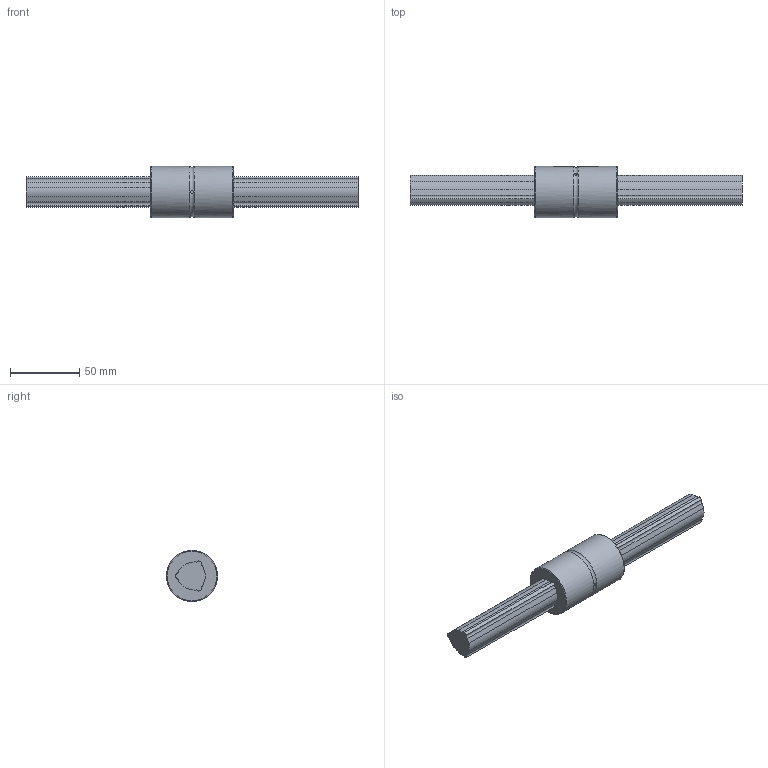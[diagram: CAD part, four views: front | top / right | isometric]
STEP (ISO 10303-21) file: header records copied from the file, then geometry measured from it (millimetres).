
FILE_DESCRIPTION(/* description */ ('STEP AP203'),/* implementation_level */ '2;1');
FILE_NAME(/* name */ 'LBS25+240L(60900)',/* time_stamp */ '2024-05-23T11:58:23+02:00',/* author */ ('License CC BY-ND 4.0'),/* organization */ ('CADENAS'),/* preprocessor_version */ 'ST-DEVELOPER v19.3',/* originating_system */ 'PARTsolutions',/* authorisation */ ' ');
FILE_SCHEMA (('CONFIG_CONTROL_DESIGN'));
Length unit declared in the file: millimetre
Products named in the file (3): LBS25+240L(60900); LBS25 Nut; LBS251240 Spline Shaft
Assembly tree (2 placements, depth 2):
  LBS25+240L(60900)
    LBS25 Nut
    LBS251240 Spline Shaft
Bounding box: 240 x 37 x 37 mm (x, y, z)
Volume: 124074 mm3; surface area: 30815.6 mm2
Topology: 2 solids, 2 shells, 56 faces, 148 edges, 99 vertices
Faces by surface type: cylinder 31, plane 22, torus 3
Full cylindrical faces by diameter (mm): 2 x3, 37 x2
Entity records: 1798 total; most frequent: CARTESIAN_POINT 343, DIRECTION 306, ORIENTED_EDGE 272, EDGE_CURVE 136, AXIS2_PLACEMENT_3D 118, VERTEX_POINT 94, LINE 70, VECTOR 70
